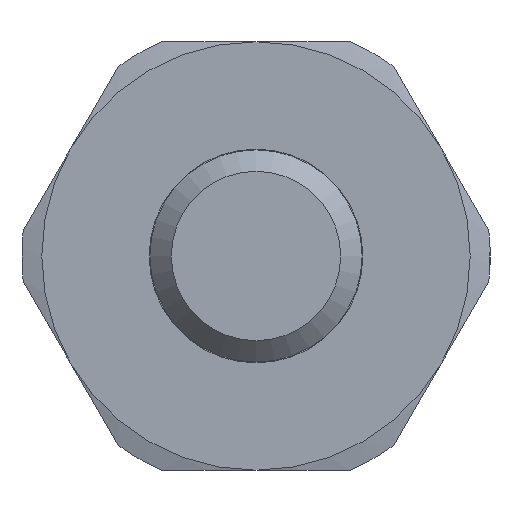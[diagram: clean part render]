
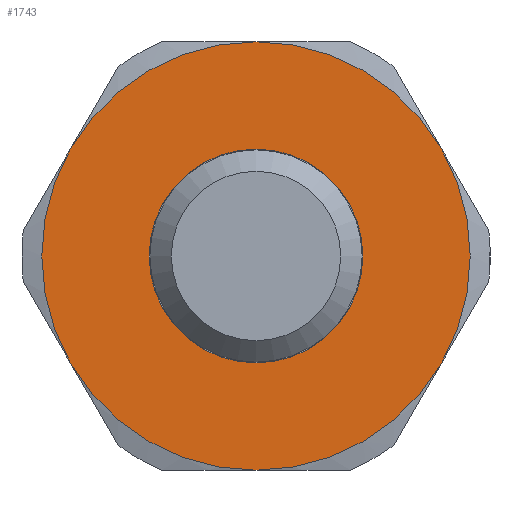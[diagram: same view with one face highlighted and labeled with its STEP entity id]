
A CAD part, left-side view. The second image highlights one B-rep face of the part: STEP entity #1743.
In plain terms, the highlighted planar face has unit normal (-1, 0, 0).
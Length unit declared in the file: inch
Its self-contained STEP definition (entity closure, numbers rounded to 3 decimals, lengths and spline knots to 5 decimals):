
#292=CARTESIAN_POINT('',(-0.219,-0.2495,0.0));
#293=VERTEX_POINT('',#292);
#294=CARTESIAN_POINT('',(-0.219,0.,0.0));
#295=DIRECTION('',(1.0,0.0,0.0));
#296=DIRECTION('',(0.0,-1.0,0.0));
#297=AXIS2_PLACEMENT_3D('',#294,#295,#296);
#298=CIRCLE('',#297,0.2495);
#299=EDGE_CURVE('',#293,#293,#298,.T.);
#1679=CARTESIAN_POINT('',(-0.219,0.0,0.0));
#1680=DIRECTION('',(1.0,0.0,0.0));
#1681=DIRECTION('',(0.0,1.0,0.0));
#1682=AXIS2_PLACEMENT_3D('',#1679,#1680,#1681);
#1683=PLANE('',#1682);
#1684=CARTESIAN_POINT('',(-0.219,0.43301,-0.25));
#1685=VERTEX_POINT('',#1684);
#1686=CARTESIAN_POINT('',(-0.219,0.0,-0.5));
#1687=VERTEX_POINT('',#1686);
#1688=CARTESIAN_POINT('',(-0.219,0.0,0.0));
#1689=DIRECTION('',(-1.0,0.0,0.0));
#1690=DIRECTION('',(0.0,1.0,0.0));
#1691=AXIS2_PLACEMENT_3D('',#1688,#1689,#1690);
#1692=CIRCLE('',#1691,0.5);
#1693=EDGE_CURVE('',#1685,#1687,#1692,.T.);
#1694=ORIENTED_EDGE('',*,*,#1693,.T.);
#1695=CARTESIAN_POINT('',(-0.219,-0.43301,-0.25));
#1696=VERTEX_POINT('',#1695);
#1697=CARTESIAN_POINT('',(-0.219,0.0,0.0));
#1698=DIRECTION('',(-1.0,0.0,0.0));
#1699=DIRECTION('',(0.0,1.0,0.0));
#1700=AXIS2_PLACEMENT_3D('',#1697,#1698,#1699);
#1701=CIRCLE('',#1700,0.5);
#1702=EDGE_CURVE('',#1687,#1696,#1701,.T.);
#1703=ORIENTED_EDGE('',*,*,#1702,.T.);
#1704=CARTESIAN_POINT('',(-0.219,-0.43301,0.25));
#1705=VERTEX_POINT('',#1704);
#1706=CARTESIAN_POINT('',(-0.219,0.0,0.0));
#1707=DIRECTION('',(-1.0,0.0,0.0));
#1708=DIRECTION('',(0.0,1.0,0.0));
#1709=AXIS2_PLACEMENT_3D('',#1706,#1707,#1708);
#1710=CIRCLE('',#1709,0.5);
#1711=EDGE_CURVE('',#1696,#1705,#1710,.T.);
#1712=ORIENTED_EDGE('',*,*,#1711,.T.);
#1713=CARTESIAN_POINT('',(-0.219,0.0,0.5));
#1714=VERTEX_POINT('',#1713);
#1715=CARTESIAN_POINT('',(-0.219,0.0,0.0));
#1716=DIRECTION('',(-1.0,0.0,0.0));
#1717=DIRECTION('',(0.0,1.0,0.0));
#1718=AXIS2_PLACEMENT_3D('',#1715,#1716,#1717);
#1719=CIRCLE('',#1718,0.5);
#1720=EDGE_CURVE('',#1705,#1714,#1719,.T.);
#1721=ORIENTED_EDGE('',*,*,#1720,.T.);
#1722=CARTESIAN_POINT('',(-0.219,0.43301,0.25));
#1723=VERTEX_POINT('',#1722);
#1724=CARTESIAN_POINT('',(-0.219,0.0,0.0));
#1725=DIRECTION('',(-1.0,0.0,0.0));
#1726=DIRECTION('',(0.0,1.0,0.0));
#1727=AXIS2_PLACEMENT_3D('',#1724,#1725,#1726);
#1728=CIRCLE('',#1727,0.5);
#1729=EDGE_CURVE('',#1714,#1723,#1728,.T.);
#1730=ORIENTED_EDGE('',*,*,#1729,.T.);
#1731=CARTESIAN_POINT('',(-0.219,0.0,0.0));
#1732=DIRECTION('',(-1.0,0.0,0.0));
#1733=DIRECTION('',(0.0,1.0,0.0));
#1734=AXIS2_PLACEMENT_3D('',#1731,#1732,#1733);
#1735=CIRCLE('',#1734,0.5);
#1736=EDGE_CURVE('',#1723,#1685,#1735,.T.);
#1737=ORIENTED_EDGE('',*,*,#1736,.T.);
#1738=EDGE_LOOP('',(#1694,#1703,#1712,#1721,#1730,#1737));
#1739=FACE_OUTER_BOUND('',#1738,.T.);
#1740=ORIENTED_EDGE('',*,*,#299,.T.);
#1741=EDGE_LOOP('',(#1740));
#1742=FACE_BOUND('',#1741,.T.);
#1743=ADVANCED_FACE('',(#1739,#1742),#1683,.F.);
